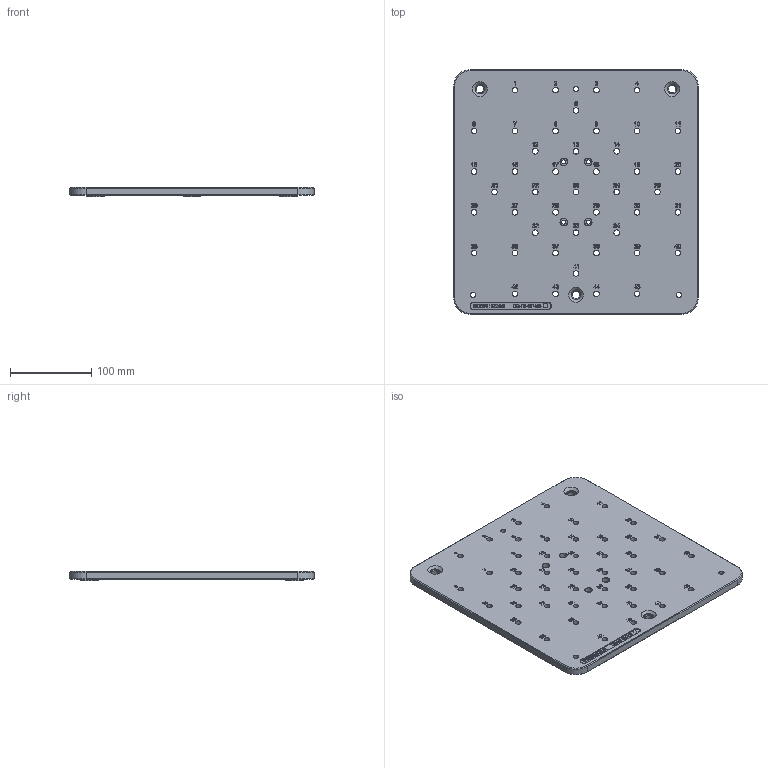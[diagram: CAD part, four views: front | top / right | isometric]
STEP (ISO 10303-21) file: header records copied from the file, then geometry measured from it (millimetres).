
FILE_DESCRIPTION(/* description */ (''),/* implementation_level */ '2;1');
FILE_NAME(/* name */ 'M8 STANDARD BOLT ON.stp',/* time_stamp */ '2021-02-12T12:24:57+00:00',/* author */ (''),/* organization */ (''),/* preprocessor_version */ 'ST-DEVELOPER v16.7',/* originating_system */ 'SIEMENS PLM Software NX 1942',/* authorisation */ '');
FILE_SCHEMA (('AUTOMOTIVE_DESIGN { 1 0 10303 214 3 1 1 1 }'));
Length unit declared in the file: millimetre
Products named in the file (1): jh1424784273ezr9
Bounding box: 300 x 300 x 11.7 mm (x, y, z)
Volume: 872192.6 mm3; surface area: 202690.9 mm2
Topology: 5 solids, 5 shells, 365 faces, 1314 edges, 1119 vertices
Faces by surface type: plane 190, cone 90, cylinder 85
Full cylindrical faces by diameter (mm): 5.2 x4, 6 x3, 6.9 x45, 9 x4, 9.25 x3, 10 x2, 11.67 x3, 12.27 x3, 12.4 x3, 22 x3
Entity records: 17113 total; most frequent: CARTESIAN_POINT 6653, ORIENTED_EDGE 2292, DIRECTION 1429, EDGE_CURVE 1146, VERTEX_POINT 1108, EDGE_LOOP 796, B_SPLINE_CURVE_WITH_KNOTS 723, AXIS2_PLACEMENT_3D 640
